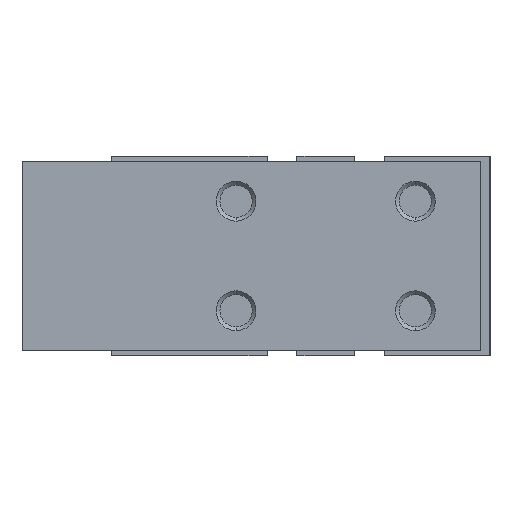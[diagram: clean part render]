
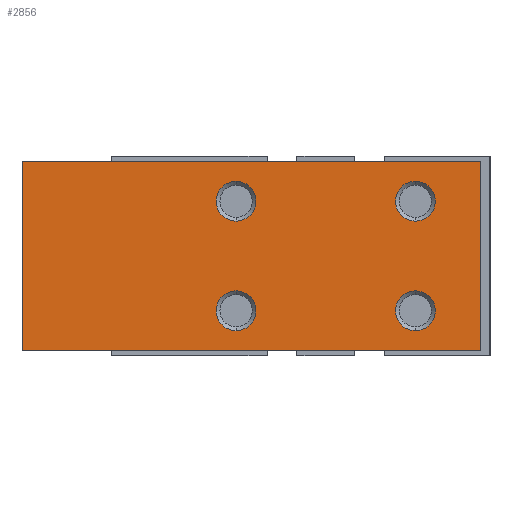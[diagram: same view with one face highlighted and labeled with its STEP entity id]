
A CAD part, left-side view. The second image highlights one B-rep face of the part: STEP entity #2856.
In plain terms, the highlighted planar face has unit normal (-1, 0, 0).
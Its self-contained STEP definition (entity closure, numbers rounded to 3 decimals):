
#215 = LINE ( 'NONE', #5201, #3528 ) ;
#226 = CIRCLE ( 'NONE', #1291, 2. ) ;
#303 = VERTEX_POINT ( 'NONE', #2869 ) ;
#381 = VERTEX_POINT ( 'NONE', #2451 ) ;
#408 = CARTESIAN_POINT ( 'NONE',  ( -11.5, 9., -7.5 ) ) ;
#450 = EDGE_CURVE ( 'NONE', #5039, #519, #5588, .T. ) ;
#519 = VERTEX_POINT ( 'NONE', #3555 ) ;
#550 = ORIENTED_EDGE ( 'NONE', *, *, #960, .F. ) ;
#591 = LINE ( 'NONE', #2806, #697 ) ;
#638 = DIRECTION ( 'NONE',  ( 0., 0., 1. ) ) ;
#697 = VECTOR ( 'NONE', #4212, 1000. ) ;
#727 = DIRECTION ( 'NONE',  ( 0., 0., 1. ) ) ;
#730 = VERTEX_POINT ( 'NONE', #1295 ) ;
#773 = ORIENTED_EDGE ( 'NONE', *, *, #2830, .F. ) ;
#923 = EDGE_CURVE ( 'NONE', #3005, #730, #1757, .T. ) ;
#958 = VERTEX_POINT ( 'NONE', #5798 ) ;
#960 = EDGE_CURVE ( 'NONE', #2163, #5776, #226, .T. ) ;
#962 = AXIS2_PLACEMENT_3D ( 'NONE', #2508, #3008, #3430 ) ;
#1242 = DIRECTION ( 'NONE',  ( 0., 0., -1. ) ) ;
#1291 = AXIS2_PLACEMENT_3D ( 'NONE', #1663, #4047, #5384 ) ;
#1295 = CARTESIAN_POINT ( 'NONE',  ( -11.5, 30.5, -9.5 ) ) ;
#1330 = CARTESIAN_POINT ( 'NONE',  ( -11.5, 9., 7.5 ) ) ;
#1362 = DIRECTION ( 'NONE',  ( 0., 0., 1. ) ) ;
#1392 = EDGE_CURVE ( 'NONE', #5776, #2163, #2660, .T. ) ;
#1419 = ORIENTED_EDGE ( 'NONE', *, *, #4227, .F. ) ;
#1630 = DIRECTION ( 'NONE',  ( -1., 0., 0. ) ) ;
#1657 = ORIENTED_EDGE ( 'NONE', *, *, #923, .T. ) ;
#1658 = CIRCLE ( 'NONE', #5052, 2. ) ;
#1659 = ORIENTED_EDGE ( 'NONE', *, *, #2743, .F. ) ;
#1663 = CARTESIAN_POINT ( 'NONE',  ( -11.5, 9., -5.5 ) ) ;
#1681 = CARTESIAN_POINT ( 'NONE',  ( -11.5, 9., -5.5 ) ) ;
#1696 = DIRECTION ( 'NONE',  ( 0., 0., 1. ) ) ;
#1721 = VERTEX_POINT ( 'NONE', #3631 ) ;
#1757 = LINE ( 'NONE', #3044, #4180 ) ;
#1824 = DIRECTION ( 'NONE',  ( -1., 0., 0. ) ) ;
#1835 = AXIS2_PLACEMENT_3D ( 'NONE', #5455, #1824, #1696 ) ;
#1880 = CARTESIAN_POINT ( 'NONE',  ( -11.5, -15.5, 9.5 ) ) ;
#2011 = CARTESIAN_POINT ( 'NONE',  ( -11.5, 9., -3.5 ) ) ;
#2110 = CIRCLE ( 'NONE', #1835, 2. ) ;
#2163 = VERTEX_POINT ( 'NONE', #408 ) ;
#2180 = LINE ( 'NONE', #4376, #3532 ) ;
#2255 = VERTEX_POINT ( 'NONE', #1880 ) ;
#2293 = ORIENTED_EDGE ( 'NONE', *, *, #5498, .F. ) ;
#2304 = DIRECTION ( 'NONE',  ( -1., 0., 0. ) ) ;
#2410 = DIRECTION ( 'NONE',  ( 0., 0., 1. ) ) ;
#2451 = CARTESIAN_POINT ( 'NONE',  ( -11.5, -9., 3.5 ) ) ;
#2508 = CARTESIAN_POINT ( 'NONE',  ( -11.5, -9., -5.5 ) ) ;
#2572 = FACE_BOUND ( 'NONE', #4018, .T. ) ;
#2593 = DIRECTION ( 'NONE',  ( -1., 0., 0. ) ) ;
#2660 = CIRCLE ( 'NONE', #3794, 2. ) ;
#2701 = CARTESIAN_POINT ( 'NONE',  ( -11.5, 30.5, 9.5 ) ) ;
#2705 = VERTEX_POINT ( 'NONE', #1330 ) ;
#2730 = FACE_BOUND ( 'NONE', #2962, .T. ) ;
#2743 = EDGE_CURVE ( 'NONE', #381, #958, #4095, .T. ) ;
#2771 = EDGE_CURVE ( 'NONE', #3005, #2255, #215, .T. ) ;
#2806 = CARTESIAN_POINT ( 'NONE',  ( -11.5, 30.5, -9.5 ) ) ;
#2830 = EDGE_CURVE ( 'NONE', #2705, #1721, #5054, .T. ) ;
#2856 = ADVANCED_FACE ( 'NONE', ( #4835, #5317, #4871, #2572, #2730 ), #3559, .F. ) ;
#2869 = CARTESIAN_POINT ( 'NONE',  ( -11.5, -15.5, -9.5 ) ) ;
#2962 = EDGE_LOOP ( 'NONE', ( #773, #3988 ) ) ;
#2989 = EDGE_LOOP ( 'NONE', ( #5835, #1659 ) ) ;
#3005 = VERTEX_POINT ( 'NONE', #5385 ) ;
#3008 = DIRECTION ( 'NONE',  ( -1., 0., 0. ) ) ;
#3044 = CARTESIAN_POINT ( 'NONE',  ( -11.5, 30.5, 9.5 ) ) ;
#3283 = ORIENTED_EDGE ( 'NONE', *, *, #450, .F. ) ;
#3301 = CIRCLE ( 'NONE', #3690, 2. ) ;
#3409 = CARTESIAN_POINT ( 'NONE',  ( -11.5, -9., 5.5 ) ) ;
#3430 = DIRECTION ( 'NONE',  ( 0., 0., 1. ) ) ;
#3435 = CARTESIAN_POINT ( 'NONE',  ( -11.5, 9., 5.5 ) ) ;
#3483 = EDGE_LOOP ( 'NONE', ( #5126, #550 ) ) ;
#3528 = VECTOR ( 'NONE', #4776, 1000. ) ;
#3532 = VECTOR ( 'NONE', #1242, 1000. ) ;
#3555 = CARTESIAN_POINT ( 'NONE',  ( -11.5, -9., -7.5 ) ) ;
#3559 = PLANE ( 'NONE',  #5139 ) ;
#3577 = CARTESIAN_POINT ( 'NONE',  ( -11.5, 9., 5.5 ) ) ;
#3631 = CARTESIAN_POINT ( 'NONE',  ( -11.5, 9., 3.5 ) ) ;
#3690 = AXIS2_PLACEMENT_3D ( 'NONE', #5505, #2304, #1362 ) ;
#3794 = AXIS2_PLACEMENT_3D ( 'NONE', #1681, #2593, #5337 ) ;
#3951 = DIRECTION ( 'NONE',  ( 0., 0., -1. ) ) ;
#3988 = ORIENTED_EDGE ( 'NONE', *, *, #4876, .F. ) ;
#4018 = EDGE_LOOP ( 'NONE', ( #3283, #1419 ) ) ;
#4047 = DIRECTION ( 'NONE',  ( -1., 0., 0. ) ) ;
#4095 = CIRCLE ( 'NONE', #4864, 2. ) ;
#4180 = VECTOR ( 'NONE', #3951, 1000. ) ;
#4212 = DIRECTION ( 'NONE',  ( 0., -1., 0. ) ) ;
#4227 = EDGE_CURVE ( 'NONE', #519, #5039, #2110, .T. ) ;
#4376 = CARTESIAN_POINT ( 'NONE',  ( -11.5, -15.5, 9.5 ) ) ;
#4378 = DIRECTION ( 'NONE',  ( -1., 0., 0. ) ) ;
#4540 = DIRECTION ( 'NONE',  ( 1., 0., 0. ) ) ;
#4562 = AXIS2_PLACEMENT_3D ( 'NONE', #3435, #1630, #727 ) ;
#4723 = EDGE_CURVE ( 'NONE', #958, #381, #3301, .T. ) ;
#4776 = DIRECTION ( 'NONE',  ( 0., -1., 0. ) ) ;
#4835 = FACE_OUTER_BOUND ( 'NONE', #5912, .T. ) ;
#4864 = AXIS2_PLACEMENT_3D ( 'NONE', #3409, #4378, #638 ) ;
#4871 = FACE_BOUND ( 'NONE', #2989, .T. ) ;
#4876 = EDGE_CURVE ( 'NONE', #1721, #2705, #1658, .T. ) ;
#4936 = DIRECTION ( 'NONE',  ( 0., 1., 0. ) ) ;
#4939 = ORIENTED_EDGE ( 'NONE', *, *, #2771, .F. ) ;
#4946 = EDGE_CURVE ( 'NONE', #730, #303, #591, .T. ) ;
#5039 = VERTEX_POINT ( 'NONE', #5722 ) ;
#5052 = AXIS2_PLACEMENT_3D ( 'NONE', #3577, #5440, #2410 ) ;
#5054 = CIRCLE ( 'NONE', #4562, 2. ) ;
#5126 = ORIENTED_EDGE ( 'NONE', *, *, #1392, .F. ) ;
#5139 = AXIS2_PLACEMENT_3D ( 'NONE', #2701, #4540, #4936 ) ;
#5201 = CARTESIAN_POINT ( 'NONE',  ( -11.5, 30.5, 9.5 ) ) ;
#5312 = ORIENTED_EDGE ( 'NONE', *, *, #4946, .T. ) ;
#5317 = FACE_BOUND ( 'NONE', #3483, .T. ) ;
#5337 = DIRECTION ( 'NONE',  ( 0., 0., 1. ) ) ;
#5384 = DIRECTION ( 'NONE',  ( 0., 0., 1. ) ) ;
#5385 = CARTESIAN_POINT ( 'NONE',  ( -11.5, 30.5, 9.5 ) ) ;
#5440 = DIRECTION ( 'NONE',  ( -1., 0., 0. ) ) ;
#5455 = CARTESIAN_POINT ( 'NONE',  ( -11.5, -9., -5.5 ) ) ;
#5498 = EDGE_CURVE ( 'NONE', #2255, #303, #2180, .T. ) ;
#5505 = CARTESIAN_POINT ( 'NONE',  ( -11.5, -9., 5.5 ) ) ;
#5588 = CIRCLE ( 'NONE', #962, 2. ) ;
#5722 = CARTESIAN_POINT ( 'NONE',  ( -11.5, -9., -3.5 ) ) ;
#5776 = VERTEX_POINT ( 'NONE', #2011 ) ;
#5798 = CARTESIAN_POINT ( 'NONE',  ( -11.5, -9., 7.5 ) ) ;
#5835 = ORIENTED_EDGE ( 'NONE', *, *, #4723, .F. ) ;
#5912 = EDGE_LOOP ( 'NONE', ( #5312, #2293, #4939, #1657 ) ) ;
